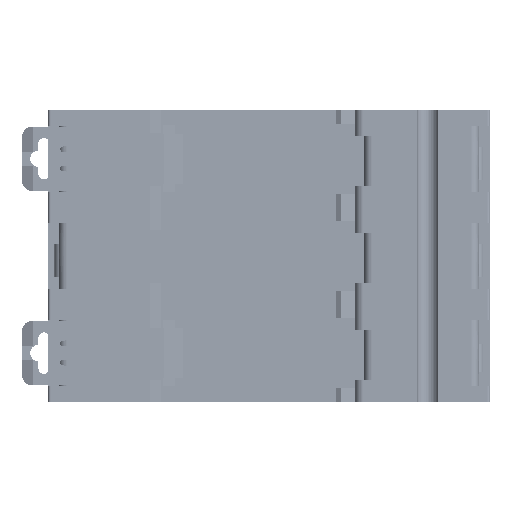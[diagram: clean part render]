
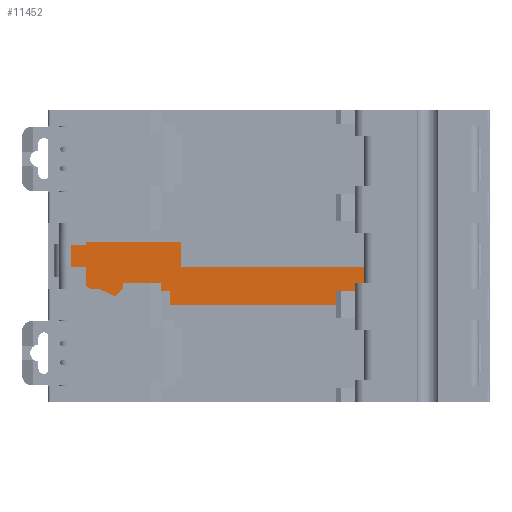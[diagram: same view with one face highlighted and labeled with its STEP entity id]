
A CAD part, front view. The second image highlights one B-rep face of the part: STEP entity #11452.
In plain terms, the highlighted planar face has unit normal (0, -1, 0).
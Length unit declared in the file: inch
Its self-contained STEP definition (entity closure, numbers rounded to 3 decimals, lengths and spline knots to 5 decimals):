
#120 = CARTESIAN_POINT ( 'NONE',  ( -1.51575, 0., 0.11417 ) ) ;
#202 = EDGE_CURVE ( 'NONE', #14333, #18233, #64346, .T. ) ;
#353 = LINE ( 'NONE', #39527, #45492 ) ;
#2236 = ORIENTED_EDGE ( 'NONE', *, *, #202, .T. ) ;
#2947 = VECTOR ( 'NONE', #11898, 39.37008 ) ;
#3500 = VECTOR ( 'NONE', #16866, 39.37008 ) ;
#3867 = EDGE_CURVE ( 'NONE', #61075, #31907, #9131, .T. ) ;
#4081 = EDGE_CURVE ( 'NONE', #105587, #27453, #52760, .T. ) ;
#4841 = VECTOR ( 'NONE', #73842, 39.37008 ) ;
#5780 = CARTESIAN_POINT ( 'NONE',  ( -1.22839, 0., 0.11417 ) ) ;
#9131 = LINE ( 'NONE', #88452, #3500 ) ;
#9187 = DIRECTION ( 'NONE',  ( 1., 0., 0. ) ) ;
#11141 = VERTEX_POINT ( 'NONE', #52212 ) ;
#11452 = ADVANCED_FACE ( 'NONE', ( #99152 ), #74545, .T. ) ;
#11898 = DIRECTION ( 'NONE',  ( 1., 0., 0. ) ) ;
#12481 = ORIENTED_EDGE ( 'NONE', *, *, #42087, .F. ) ;
#14026 = CARTESIAN_POINT ( 'NONE',  ( -1.22839, 0., 0.11417 ) ) ;
#14333 = VERTEX_POINT ( 'NONE', #106287 ) ;
#14344 = VECTOR ( 'NONE', #108408, 39.37008 ) ;
#14593 = ORIENTED_EDGE ( 'NONE', *, *, #54736, .T. ) ;
#14831 = DIRECTION ( 'NONE',  ( 0.906, 0., -0.423 ) ) ;
#15257 = ORIENTED_EDGE ( 'NONE', *, *, #112845, .T. ) ;
#16823 = CARTESIAN_POINT ( 'NONE',  ( -1.11024, 0., 0.05906 ) ) ;
#16866 = DIRECTION ( 'NONE',  ( -1., 0., 0. ) ) ;
#18002 = EDGE_CURVE ( 'NONE', #82845, #27453, #38327, .T. ) ;
#18233 = VERTEX_POINT ( 'NONE', #30775 ) ;
#18322 = LINE ( 'NONE', #120, #66169 ) ;
#18914 = ORIENTED_EDGE ( 'NONE', *, *, #107692, .T. ) ;
#20602 = VERTEX_POINT ( 'NONE', #113649 ) ;
#20873 = CARTESIAN_POINT ( 'NONE',  ( 0.62992, 0., 0. ) ) ;
#22675 = CARTESIAN_POINT ( 'NONE',  ( 0.62992, 0., 0.09843 ) ) ;
#22761 = LINE ( 'NONE', #57347, #91767 ) ;
#23726 = EDGE_CURVE ( 'NONE', #50563, #11141, #18322, .T. ) ;
#25855 = DIRECTION ( 'NONE',  ( 0.731, 0., 0.683 ) ) ;
#26067 = CARTESIAN_POINT ( 'NONE',  ( -0.8937, 0., 0.05906 ) ) ;
#26851 = CARTESIAN_POINT ( 'NONE',  ( -1.4311, 0., 0.11417 ) ) ;
#27279 = CARTESIAN_POINT ( 'NONE',  ( -0.71654, 0., 0. ) ) ;
#27453 = VERTEX_POINT ( 'NONE', #69182 ) ;
#29690 = CARTESIAN_POINT ( 'NONE',  ( -1.51575, 0., 0.11417 ) ) ;
#30316 = ORIENTED_EDGE ( 'NONE', *, *, #33455, .T. ) ;
#30572 = CARTESIAN_POINT ( 'NONE',  ( -1.4311, 0., 0.44882 ) ) ;
#30775 = CARTESIAN_POINT ( 'NONE',  ( -0.71654, 0., 0. ) ) ;
#30809 = EDGE_CURVE ( 'NONE', #98568, #68549, #81813, .T. ) ;
#31017 = DIRECTION ( 'NONE',  ( 1., 0., 0. ) ) ;
#31907 = VERTEX_POINT ( 'NONE', #30572 ) ;
#32190 = LINE ( 'NONE', #104772, #104089 ) ;
#33090 = LINE ( 'NONE', #26067, #78110 ) ;
#33276 = EDGE_LOOP ( 'NONE', ( #12481, #35818, #30316, #104937, #115315, #77756, #53458, #34533, #93614, #69923, #87351, #15257, #51691, #39336, #18914, #14593, #2236, #106750 ) ) ;
#33455 = EDGE_CURVE ( 'NONE', #67116, #82845, #32190, .T. ) ;
#34533 = ORIENTED_EDGE ( 'NONE', *, *, #3867, .T. ) ;
#35113 = DIRECTION ( 'NONE',  ( 0., 0., 1. ) ) ;
#35818 = ORIENTED_EDGE ( 'NONE', *, *, #93999, .T. ) ;
#38327 = LINE ( 'NONE', #27279, #14344 ) ;
#39336 = ORIENTED_EDGE ( 'NONE', *, *, #52283, .T. ) ;
#39527 = CARTESIAN_POINT ( 'NONE',  ( -1.4311, 0., 0.11417 ) ) ;
#40465 = VECTOR ( 'NONE', #115564, 39.37008 ) ;
#40634 = VERTEX_POINT ( 'NONE', #75441 ) ;
#41525 = VERTEX_POINT ( 'NONE', #106788 ) ;
#42087 = EDGE_CURVE ( 'NONE', #82957, #41525, #105472, .T. ) ;
#43777 = CARTESIAN_POINT ( 'NONE',  ( 0.68504, 0., 0.27165 ) ) ;
#43980 = EDGE_CURVE ( 'NONE', #105587, #40634, #89617, .T. ) ;
#44113 = LINE ( 'NONE', #5780, #65159 ) ;
#44879 = CARTESIAN_POINT ( 'NONE',  ( 0.48031, 0., 0.09843 ) ) ;
#45492 = VECTOR ( 'NONE', #84748, 39.37008 ) ;
#46541 = CARTESIAN_POINT ( 'NONE',  ( -1.05118, 0., 0.11417 ) ) ;
#47842 = DIRECTION ( 'NONE',  ( 1., 0., 0. ) ) ;
#48973 = DIRECTION ( 'NONE',  ( 1., 0., 0. ) ) ;
#50563 = VERTEX_POINT ( 'NONE', #107901 ) ;
#50830 = DIRECTION ( 'NONE',  ( 0., 0., -1. ) ) ;
#51691 = ORIENTED_EDGE ( 'NONE', *, *, #23726, .T. ) ;
#52212 = CARTESIAN_POINT ( 'NONE',  ( -1.05118, 0., 0.11417 ) ) ;
#52283 = EDGE_CURVE ( 'NONE', #11141, #113146, #53222, .T. ) ;
#52760 = LINE ( 'NONE', #64783, #4841 ) ;
#53222 = LINE ( 'NONE', #46541, #95453 ) ;
#53458 = ORIENTED_EDGE ( 'NONE', *, *, #100321, .T. ) ;
#54489 = CARTESIAN_POINT ( 'NONE',  ( 0.68504, 0., 0.27165 ) ) ;
#54736 = EDGE_CURVE ( 'NONE', #20602, #14333, #63820, .T. ) ;
#54842 = EDGE_CURVE ( 'NONE', #68549, #91169, #44113, .T. ) ;
#55539 = DIRECTION ( 'NONE',  ( 0.944, 0., -0.33 ) ) ;
#57246 = LINE ( 'NONE', #75302, #99524 ) ;
#57347 = CARTESIAN_POINT ( 'NONE',  ( -0.71654, 0., 0. ) ) ;
#61045 = LINE ( 'NONE', #102922, #106212 ) ;
#61075 = VERTEX_POINT ( 'NONE', #96783 ) ;
#61204 = CARTESIAN_POINT ( 'NONE',  ( -0.71654, 0., 0.09843 ) ) ;
#63820 = LINE ( 'NONE', #111735, #84961 ) ;
#64346 = LINE ( 'NONE', #61204, #40465 ) ;
#64533 = CARTESIAN_POINT ( 'NONE',  ( -1.11024, 0., 0.05906 ) ) ;
#64783 = CARTESIAN_POINT ( 'NONE',  ( 0.68504, 0., 0. ) ) ;
#65159 = VECTOR ( 'NONE', #14831, 39.37008 ) ;
#65812 = CARTESIAN_POINT ( 'NONE',  ( -1.51575, 0., 0.11417 ) ) ;
#66169 = VECTOR ( 'NONE', #9187, 39.37008 ) ;
#67116 = VERTEX_POINT ( 'NONE', #22675 ) ;
#68549 = VERTEX_POINT ( 'NONE', #14026 ) ;
#69182 = CARTESIAN_POINT ( 'NONE',  ( 0.68504, 0., 0. ) ) ;
#69923 = ORIENTED_EDGE ( 'NONE', *, *, #30809, .T. ) ;
#71309 = VECTOR ( 'NONE', #79545, 39.37008 ) ;
#73842 = DIRECTION ( 'NONE',  ( 0., 0., -1. ) ) ;
#74545 = PLANE ( 'NONE',  #99576 ) ;
#75302 = CARTESIAN_POINT ( 'NONE',  ( -0.63583, 0., 0.27165 ) ) ;
#75441 = CARTESIAN_POINT ( 'NONE',  ( -0.63583, 0., 0.27165 ) ) ;
#77756 = ORIENTED_EDGE ( 'NONE', *, *, #43980, .T. ) ;
#78110 = VECTOR ( 'NONE', #35113, 39.37008 ) ;
#79545 = DIRECTION ( 'NONE',  ( -1., 0., 0. ) ) ;
#81490 = VECTOR ( 'NONE', #90090, 39.37008 ) ;
#81813 = LINE ( 'NONE', #65812, #2947 ) ;
#82845 = VERTEX_POINT ( 'NONE', #20873 ) ;
#82957 = VERTEX_POINT ( 'NONE', #105537 ) ;
#83736 = DIRECTION ( 'NONE',  ( 1., 0., 0. ) ) ;
#84449 = CARTESIAN_POINT ( 'NONE',  ( -0.8937, 0., 0.05906 ) ) ;
#84748 = DIRECTION ( 'NONE',  ( 0., 0., 1. ) ) ;
#84770 = DIRECTION ( 'NONE',  ( 0., 0., 1. ) ) ;
#84961 = VECTOR ( 'NONE', #31017, 39.37008 ) ;
#87351 = ORIENTED_EDGE ( 'NONE', *, *, #54842, .T. ) ;
#88452 = CARTESIAN_POINT ( 'NONE',  ( 1.17126, 0., 0.44882 ) ) ;
#88848 = EDGE_CURVE ( 'NONE', #18233, #41525, #22761, .T. ) ;
#89550 = LINE ( 'NONE', #16823, #110728 ) ;
#89617 = LINE ( 'NONE', #43777, #71309 ) ;
#90090 = DIRECTION ( 'NONE',  ( 0., 0., -1. ) ) ;
#91169 = VERTEX_POINT ( 'NONE', #64533 ) ;
#91767 = VECTOR ( 'NONE', #83736, 39.37008 ) ;
#93614 = ORIENTED_EDGE ( 'NONE', *, *, #115404, .F. ) ;
#93999 = EDGE_CURVE ( 'NONE', #82957, #67116, #61045, .T. ) ;
#95453 = VECTOR ( 'NONE', #55539, 39.37008 ) ;
#96783 = CARTESIAN_POINT ( 'NONE',  ( -0.63583, 0., 0.44882 ) ) ;
#98568 = VERTEX_POINT ( 'NONE', #26851 ) ;
#99152 = FACE_OUTER_BOUND ( 'NONE', #33276, .T. ) ;
#99524 = VECTOR ( 'NONE', #84770, 39.37008 ) ;
#99576 = AXIS2_PLACEMENT_3D ( 'NONE', #29690, #101768, #47842 ) ;
#100321 = EDGE_CURVE ( 'NONE', #40634, #61075, #57246, .T. ) ;
#101768 = DIRECTION ( 'NONE',  ( 0., -1., 0. ) ) ;
#102922 = CARTESIAN_POINT ( 'NONE',  ( 0.48031, 0., 0.09843 ) ) ;
#104089 = VECTOR ( 'NONE', #50830, 39.37008 ) ;
#104772 = CARTESIAN_POINT ( 'NONE',  ( 0.62992, 0., 0.09843 ) ) ;
#104937 = ORIENTED_EDGE ( 'NONE', *, *, #18002, .T. ) ;
#105472 = LINE ( 'NONE', #44879, #81490 ) ;
#105537 = CARTESIAN_POINT ( 'NONE',  ( 0.48031, 0., 0.09843 ) ) ;
#105587 = VERTEX_POINT ( 'NONE', #54489 ) ;
#106212 = VECTOR ( 'NONE', #48973, 39.37008 ) ;
#106287 = CARTESIAN_POINT ( 'NONE',  ( -0.71654, 0., 0.09843 ) ) ;
#106750 = ORIENTED_EDGE ( 'NONE', *, *, #88848, .T. ) ;
#106788 = CARTESIAN_POINT ( 'NONE',  ( 0.48031, 0., 0. ) ) ;
#107692 = EDGE_CURVE ( 'NONE', #113146, #20602, #33090, .T. ) ;
#107901 = CARTESIAN_POINT ( 'NONE',  ( -1.05122, 0., 0.11417 ) ) ;
#108408 = DIRECTION ( 'NONE',  ( 1., 0., 0. ) ) ;
#110728 = VECTOR ( 'NONE', #25855, 39.37008 ) ;
#111735 = CARTESIAN_POINT ( 'NONE',  ( -0.8937, 0., 0.09843 ) ) ;
#112845 = EDGE_CURVE ( 'NONE', #91169, #50563, #89550, .T. ) ;
#113146 = VERTEX_POINT ( 'NONE', #84449 ) ;
#113649 = CARTESIAN_POINT ( 'NONE',  ( -0.8937, 0., 0.09843 ) ) ;
#115315 = ORIENTED_EDGE ( 'NONE', *, *, #4081, .F. ) ;
#115404 = EDGE_CURVE ( 'NONE', #98568, #31907, #353, .T. ) ;
#115564 = DIRECTION ( 'NONE',  ( 0., 0., -1. ) ) ;
